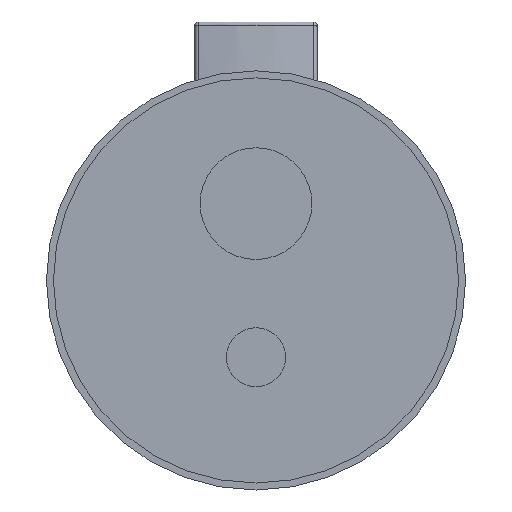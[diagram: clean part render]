
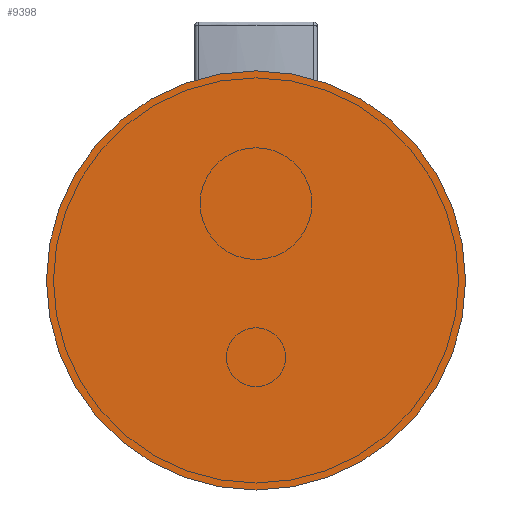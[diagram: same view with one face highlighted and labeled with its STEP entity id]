
A CAD part, front view. The second image highlights one B-rep face of the part: STEP entity #9398.
In plain terms, the highlighted planar face has unit normal (0, -1, 0).
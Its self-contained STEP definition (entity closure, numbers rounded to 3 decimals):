
#479=CARTESIAN_POINT('',(0.,50.1,-27.5));
#480=DIRECTION('',(0.,1.,0.));
#481=DIRECTION('',(0.,0.,1.));
#482=AXIS2_PLACEMENT_3D('',#479,#480,#481);
#493=CARTESIAN_POINT('',(0.,50.1,-27.5));
#494=DIRECTION('',(0.,-1.,0.));
#495=DIRECTION('',(0.,0.,1.));
#496=AXIS2_PLACEMENT_3D('',#493,#494,#495);
#8638=CARTESIAN_POINT('',(0.,50.1,47.5));
#8639=CARTESIAN_POINT('',(0.,50.1,-102.5));
#8640=VERTEX_POINT('',#8638);
#8641=VERTEX_POINT('',#8639);
#9389=CARTESIAN_POINT('',(127.25,50.1,-144.911));
#9390=DIRECTION('',(0.,1.,0.));
#9391=DIRECTION('',(0.,0.,1.));
#9392=AXIS2_PLACEMENT_3D('',#9389,#9390,#9391);
#9393=PLANE('',#9392);
#9394=ORIENTED_EDGE('',*,*,#9383,.F.);
#9395=ORIENTED_EDGE('',*,*,#9369,.T.);
#9396=EDGE_LOOP('',(#9394,#9395));
#9397=FACE_OUTER_BOUND('',#9396,.F.);
#9398=ADVANCED_FACE('',(#9397),#9393,.F.);
#483=CIRCLE('',#482,75.);
#497=CIRCLE('',#496,75.);
#9369=EDGE_CURVE('',#8640,#8641,#483,.T.);
#9383=EDGE_CURVE('',#8640,#8641,#497,.T.);
